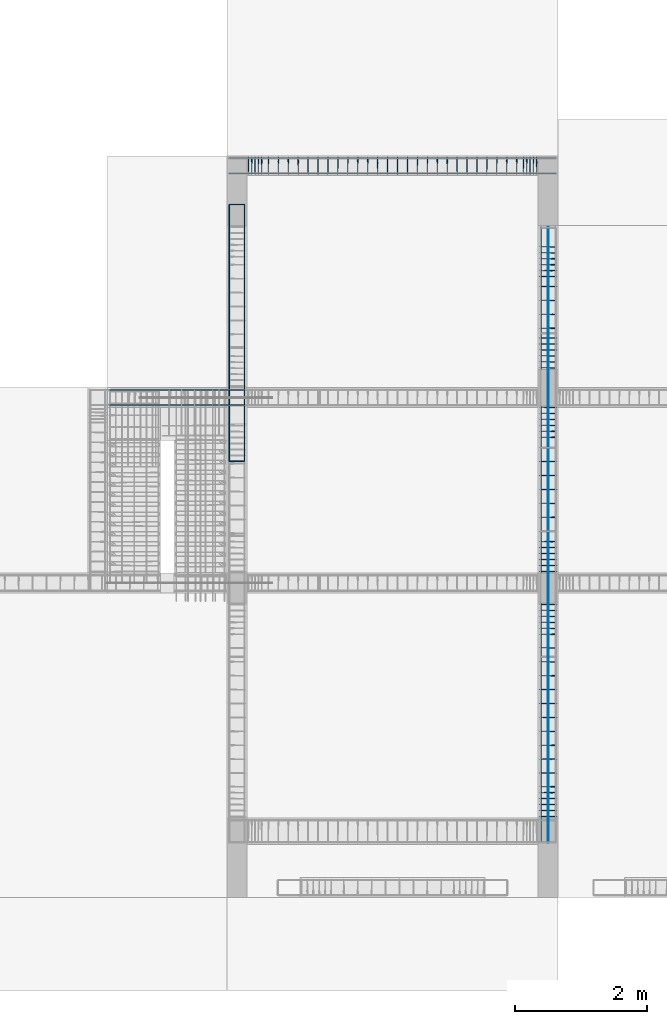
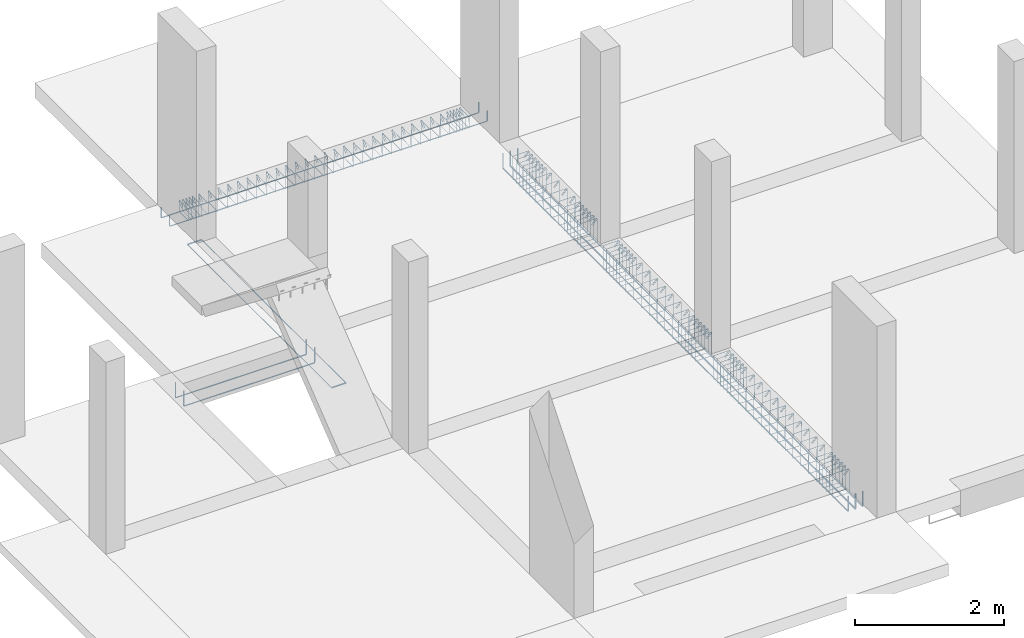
# One storey, part 4 of 5: 7 reinforcing bars.
"""IFC4 building model written with IfcOpenShell, lengths in metres."""

from ifc_helpers import new_model, entity, si_unit, frame, origin_with_axes, place, context, project, spatial, source, transform, mapped, element, save


model = new_model("IFC4")

# Units and contexts
model_context = context("Model", 3, precision=1e-05, world=origin_with_axes())
ifc_project = project(units=[si_unit("LENGTHUNIT", "METRE"), si_unit("AREAUNIT", "SQUARE_METRE"), si_unit("VOLUMEUNIT", "CUBIC_METRE"), si_unit("MASSUNIT", "GRAM", prefix="KILO"), si_unit("TIMEUNIT", "SECOND"), si_unit("PLANEANGLEUNIT", "RADIAN"), si_unit("SOLIDANGLEUNIT", "STERADIAN"), si_unit("THERMODYNAMICTEMPERATUREUNIT", "DEGREE_CELSIUS")], contexts=[model_context])

# Site, building, storey
placement_1 = place(None, origin_with_axes())
site = spatial("IfcSite", under=ifc_project, at=placement_1, Name="Italia", CompositionType="ELEMENT")
building = spatial("IfcBuilding", under=site, at=placement_1, Name="Bifamiliare", CompositionType="ELEMENT")
storey_placement = place(None, frame((0.0, 0.0, 2.799999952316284), z_axis=(0.0, 0.0, 1.0), x_axis=(1.0, 0.0, 0.0)))
storey = spatial("IfcBuildingStorey", under=building, at=storey_placement, Name="Storey 1", CompositionType="ELEMENT", Elevation=2.799999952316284)

# Reinforcing bars
shared_shape_1 = source(origin_with_axes(), model_context, "Body", "AdvancedSweptSolid", [
    entity("IfcSweptDiskSolid", entity("IfcIndexedPolyCurve", entity("IfcCartesianPointList3D", [[4.035, 8.837, 2.645], [4.035, 8.837, 2.405], [4.03576, 8.837, 2.40117], [4.03793, 8.837, 2.39793], [4.04117, 8.837, 2.39576], [4.045, 8.837, 2.395], [5.95, 8.837, 2.395], [6.055, 8.837, 2.395], [6.05883, 8.837, 2.39576], [6.06207, 8.837, 2.39793], [6.06424, 8.837, 2.40117], [6.065, 8.837, 2.405], [6.065, 8.837, 2.645]]), [entity("IfcLineIndex", [1, 2]), entity("IfcLineIndex", [2, 3]), entity("IfcLineIndex", [3, 4]), entity("IfcLineIndex", [4, 5]), entity("IfcLineIndex", [5, 6]), entity("IfcLineIndex", [6, 7]), entity("IfcLineIndex", [7, 8]), entity("IfcLineIndex", [8, 9]), entity("IfcLineIndex", [9, 10]), entity("IfcLineIndex", [10, 11]), entity("IfcLineIndex", [11, 12]), entity("IfcLineIndex", [12, 13])], False), 0.009),
])
placement_2 = place(placement_1, origin_with_axes())
reinforcing_bar_1_placement = place(placement_2, origin_with_axes())
element("IfcReinforcingBar", 1, at=reinforcing_bar_1_placement, inside=storey, BarLength=2.52121, CrossSectionArea=0.00025447, NominalDiameter=0.018, context=model_context, shape_type="MappedRepresentation", body=[
    mapped(shared_shape_1, transform((0.0, 0.226, 0.0), x_axis=(1.0, 0.0, 0.0), y_axis=(0.0, 1.0, 0.0), z_axis=(0.0, 0.0, 1.0), scale=1.0)),
    mapped(shared_shape_1, transform((0.0, 0.0, 0.0), x_axis=(1.0, 0.0, 0.0), y_axis=(0.0, 1.0, 0.0), z_axis=(0.0, 0.0, 1.0), scale=1.0)),
])
shared_shape_2 = source(origin_with_axes(), model_context, "Body", "AdvancedSweptSolid", [
    entity("IfcSweptDiskSolid", entity("IfcIndexedPolyCurve", entity("IfcCartesianPointList3D", [[6.12, 12.5053, 2.68429], [6.12085, 12.5731, 2.75207], [6.12092, 12.576, 2.75914], [6.12098, 12.576, 2.766], [6.12102, 12.5752, 2.76983], [6.12105, 12.5731, 2.77307], [6.12109, 12.5698, 2.77524], [6.12112, 12.566, 2.776], [6.12318, 12.334, 2.776], [6.12322, 12.3302, 2.77524], [6.12325, 12.3269, 2.77307], [6.12329, 12.3248, 2.76983], [6.12332, 12.324, 2.766], [6.12485, 12.324, 2.594], [6.12489, 12.3248, 2.59017], [6.12492, 12.3269, 2.58693], [6.12496, 12.3302, 2.58476], [6.12499, 12.334, 2.584], [6.12705, 12.566, 2.584], [6.12709, 12.5698, 2.58476], [6.12712, 12.5731, 2.58693], [6.12716, 12.5752, 2.59017], [6.12719, 12.576, 2.594], [6.12872, 12.576, 2.766], [6.12876, 12.5752, 2.76983], [6.12879, 12.5731, 2.77307], [6.12883, 12.5698, 2.77524], [6.12886, 12.566, 2.776], [6.12892, 12.5591, 2.776], [6.12899, 12.5521, 2.77307], [6.12984, 12.4843, 2.70529]]), [entity("IfcLineIndex", [1, 2]), entity("IfcLineIndex", [2, 3]), entity("IfcLineIndex", [3, 4]), entity("IfcLineIndex", [4, 5]), entity("IfcLineIndex", [5, 6]), entity("IfcLineIndex", [6, 7]), entity("IfcLineIndex", [7, 8]), entity("IfcLineIndex", [8, 9]), entity("IfcLineIndex", [9, 10]), entity("IfcLineIndex", [10, 11]), entity("IfcLineIndex", [11, 12]), entity("IfcLineIndex", [12, 13]), entity("IfcLineIndex", [13, 14]), entity("IfcLineIndex", [14, 15]), entity("IfcLineIndex", [15, 16]), entity("IfcLineIndex", [16, 17]), entity("IfcLineIndex", [17, 18]), entity("IfcLineIndex", [18, 19]), entity("IfcLineIndex", [19, 20]), entity("IfcLineIndex", [20, 21]), entity("IfcLineIndex", [21, 22]), entity("IfcLineIndex", [22, 23]), entity("IfcLineIndex", [23, 24]), entity("IfcLineIndex", [24, 25]), entity("IfcLineIndex", [25, 26]), entity("IfcLineIndex", [26, 27]), entity("IfcLineIndex", [27, 28]), entity("IfcLineIndex", [28, 29]), entity("IfcLineIndex", [29, 30]), entity("IfcLineIndex", [30, 31])], False), 0.004),
])
reinforcing_bar_2_placement = place(placement_2, origin_with_axes())
element("IfcReinforcingBar", 2, at=reinforcing_bar_2_placement, inside=storey, BarLength=1.10682, CrossSectionArea=5.0265e-05, NominalDiameter=0.008, context=model_context, shape_type="MappedRepresentation", body=[
    mapped(shared_shape_2, transform((3.1524, -0.00084877, 0.000744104), x_axis=(1.0, 0.00013935, -0.000125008), y_axis=(-0.000139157, 1.0, 0.0), z_axis=(0.000125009, 0.0, 1.0), scale=1.0)),
    mapped(shared_shape_2, transform((3.0024, -0.00084877, 0.000744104), x_axis=(1.0, 0.00013935, -0.000125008), y_axis=(-0.000139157, 1.0, 0.0), z_axis=(0.000125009, 0.0, 1.0), scale=1.0)),
    mapped(shared_shape_2, transform((3.4524, -0.00084877, 0.000744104), x_axis=(1.0, 0.00013935, -0.000125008), y_axis=(-0.000139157, 1.0, 0.0), z_axis=(0.000125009, 0.0, 1.0), scale=1.0)),
    mapped(shared_shape_2, transform((3.3024, -0.00084877, 0.000744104), x_axis=(1.0, 0.00013935, -0.000125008), y_axis=(-0.000139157, 1.0, 0.0), z_axis=(0.000125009, 0.0, 1.0), scale=1.0)),
    mapped(shared_shape_2, transform((2.5524, -0.00084877, 0.000744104), x_axis=(1.0, 0.00013935, -0.000125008), y_axis=(-0.000139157, 1.0, 0.0), z_axis=(0.000125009, 0.0, 1.0), scale=1.0)),
    mapped(shared_shape_2, transform((2.4024, -0.00084877, 0.000744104), x_axis=(1.0, 0.00013935, -0.000125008), y_axis=(-0.000139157, 1.0, 0.0), z_axis=(0.000125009, 0.0, 1.0), scale=1.0)),
    mapped(shared_shape_2, transform((2.8524, -0.00084877, 0.000744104), x_axis=(1.0, 0.00013935, -0.000125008), y_axis=(-0.000139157, 1.0, 0.0), z_axis=(0.000125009, 0.0, 1.0), scale=1.0)),
    mapped(shared_shape_2, transform((2.7024, -0.00084877, 0.000744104), x_axis=(1.0, 0.00013935, -0.000125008), y_axis=(-0.000139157, 1.0, 0.0), z_axis=(0.000125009, 0.0, 1.0), scale=1.0)),
    mapped(shared_shape_2, transform((4.3034, -0.00084877, 0.000744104), x_axis=(1.0, 0.00013935, -0.000125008), y_axis=(-0.000139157, 1.0, 0.0), z_axis=(0.000125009, 0.0, 1.0), scale=1.0)),
    mapped(shared_shape_2, transform((4.2534, -0.00084877, 0.000744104), x_axis=(1.0, 0.00013935, -0.000125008), y_axis=(-0.000139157, 1.0, 0.0), z_axis=(0.000125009, 0.0, 1.0), scale=1.0)),
    mapped(shared_shape_2, transform((2.2524, -0.00084877, 0.000744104), x_axis=(1.0, 0.00013935, -0.000125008), y_axis=(-0.000139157, 1.0, 0.0), z_axis=(0.000125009, 0.0, 1.0), scale=1.0)),
    mapped(shared_shape_2, transform((4.3534, -0.00084877, 0.000744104), x_axis=(1.0, 0.00013935, -0.000125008), y_axis=(-0.000139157, 1.0, 0.0), z_axis=(0.000125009, 0.0, 1.0), scale=1.0)),
    mapped(shared_shape_2, transform((4.0524, -0.00084877, 0.000744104), x_axis=(1.0, 0.00013935, -0.000125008), y_axis=(-0.000139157, 1.0, 0.0), z_axis=(0.000125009, 0.0, 1.0), scale=1.0)),
    mapped(shared_shape_2, transform((3.9024, -0.00084877, 0.000744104), x_axis=(1.0, 0.00013935, -0.000125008), y_axis=(-0.000139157, 1.0, 0.0), z_axis=(0.000125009, 0.0, 1.0), scale=1.0)),
    mapped(shared_shape_2, transform((4.2034, -0.00084877, 0.000744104), x_axis=(1.0, 0.00013935, -0.000125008), y_axis=(-0.000139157, 1.0, 0.0), z_axis=(0.000125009, 0.0, 1.0), scale=1.0)),
    mapped(shared_shape_2, transform((4.1534, -0.00084877, 0.000744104), x_axis=(1.0, 0.00013935, -0.000125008), y_axis=(-0.000139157, 1.0, 0.0), z_axis=(0.000125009, 0.0, 1.0), scale=1.0)),
    mapped(shared_shape_2, transform((0.750998, 0.0, 0.0), x_axis=(1.0, 0.0, 0.0), y_axis=(0.0, 1.0, 0.0), z_axis=(0.0, 0.0, 1.0), scale=1.0)),
    mapped(shared_shape_2, transform((0.600998, 0.0, 0.0), x_axis=(1.0, 0.0, 0.0), y_axis=(0.0, 1.0, 0.0), z_axis=(0.0, 0.0, 1.0), scale=1.0)),
    mapped(shared_shape_2, transform((3.7524, -0.00084877, 0.000744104), x_axis=(1.0, 0.00013935, -0.000125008), y_axis=(-0.000139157, 1.0, 0.0), z_axis=(0.000125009, 0.0, 1.0), scale=1.0)),
    mapped(shared_shape_2, transform((3.6024, -0.00084877, 0.000744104), x_axis=(1.0, 0.00013935, -0.000125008), y_axis=(-0.000139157, 1.0, 0.0), z_axis=(0.000125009, 0.0, 1.0), scale=1.0)),
    mapped(shared_shape_2, transform((0.199999, 0.0, 0.0), x_axis=(1.0, 0.0, 0.0), y_axis=(0.0, 1.0, 0.0), z_axis=(0.0, 0.0, 1.0), scale=1.0)),
    mapped(shared_shape_2, transform((0.149999, 0.0, 0.0), x_axis=(1.0, 0.0, 0.0), y_axis=(0.0, 1.0, 0.0), z_axis=(0.0, 0.0, 1.0), scale=1.0)),
    mapped(shared_shape_2, transform((0.450998, 0.0, 0.0), x_axis=(1.0, 0.0, 0.0), y_axis=(0.0, 1.0, 0.0), z_axis=(0.0, 0.0, 1.0), scale=1.0)),
    mapped(shared_shape_2, transform((0.300998, 0.0, 0.0), x_axis=(1.0, 0.0, 0.0), y_axis=(0.0, 1.0, 0.0), z_axis=(0.0, 0.0, 1.0), scale=1.0)),
    mapped(shared_shape_2, transform((0.0, 0.0, 0.0), x_axis=(1.0, 0.0, 0.0), y_axis=(0.0, 1.0, 0.0), z_axis=(0.0, 0.0, 1.0), scale=1.0)),
    mapped(shared_shape_2, transform((2.1024, -0.00084877, 0.000744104), x_axis=(1.0, 0.00013935, -0.000125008), y_axis=(-0.000139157, 1.0, 0.0), z_axis=(0.000125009, 0.0, 1.0), scale=1.0)),
    mapped(shared_shape_2, transform((0.099999, 0.0, 0.0), x_axis=(1.0, 0.0, 0.0), y_axis=(0.0, 1.0, 0.0), z_axis=(0.0, 0.0, 1.0), scale=1.0)),
    mapped(shared_shape_2, transform((0.0499992, 0.0, 0.0), x_axis=(1.0, 0.0, 0.0), y_axis=(0.0, 1.0, 0.0), z_axis=(0.0, 0.0, 1.0), scale=1.0)),
    mapped(shared_shape_2, transform((1.651, 0.0, 0.0), x_axis=(1.0, 0.0, 0.0), y_axis=(0.0, 1.0, 0.0), z_axis=(0.0, 0.0, 1.0), scale=1.0)),
    mapped(shared_shape_2, transform((1.501, 0.0, 0.0), x_axis=(1.0, 0.0, 0.0), y_axis=(0.0, 1.0, 0.0), z_axis=(0.0, 0.0, 1.0), scale=1.0)),
    mapped(shared_shape_2, transform((1.9524, -0.00084877, 0.000744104), x_axis=(1.0, 0.00013935, -0.000125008), y_axis=(-0.000139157, 1.0, 0.0), z_axis=(0.000125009, 0.0, 1.0), scale=1.0)),
    mapped(shared_shape_2, transform((1.801, 0.0, 0.0), x_axis=(1.0, 0.0, 0.0), y_axis=(0.0, 1.0, 0.0), z_axis=(0.0, 0.0, 1.0), scale=1.0)),
    mapped(shared_shape_2, transform((1.051, 0.0, 0.0), x_axis=(1.0, 0.0, 0.0), y_axis=(0.0, 1.0, 0.0), z_axis=(0.0, 0.0, 1.0), scale=1.0)),
    mapped(shared_shape_2, transform((0.900998, 0.0, 0.0), x_axis=(1.0, 0.0, 0.0), y_axis=(0.0, 1.0, 0.0), z_axis=(0.0, 0.0, 1.0), scale=1.0)),
    mapped(shared_shape_2, transform((1.351, 0.0, 0.0), x_axis=(1.0, 0.0, 0.0), y_axis=(0.0, 1.0, 0.0), z_axis=(0.0, 0.0, 1.0), scale=1.0)),
    mapped(shared_shape_2, transform((1.201, 0.0, 0.0), x_axis=(1.0, 0.0, 0.0), y_axis=(0.0, 1.0, 0.0), z_axis=(0.0, 0.0, 1.0), scale=1.0)),
])
shared_shape_3 = source(origin_with_axes(), model_context, "Body", "AdvancedSweptSolid", [
    entity("IfcSweptDiskSolid", entity("IfcIndexedPolyCurve", entity("IfcCartesianPointList3D", [[5.835, 12.336, 2.765], [5.835, 12.336, 2.605], [5.83576, 12.336, 2.60117], [5.83793, 12.336, 2.59793], [5.84117, 12.336, 2.59576], [5.845, 12.336, 2.595], [10.755, 12.336, 2.595], [10.7588, 12.336, 2.59576], [10.7621, 12.336, 2.59793], [10.7642, 12.336, 2.60117], [10.765, 12.336, 2.605], [10.765, 12.336, 2.765]]), [entity("IfcLineIndex", [1, 2]), entity("IfcLineIndex", [2, 3]), entity("IfcLineIndex", [3, 4]), entity("IfcLineIndex", [4, 5]), entity("IfcLineIndex", [5, 6]), entity("IfcLineIndex", [6, 7]), entity("IfcLineIndex", [7, 8]), entity("IfcLineIndex", [8, 9]), entity("IfcLineIndex", [9, 10]), entity("IfcLineIndex", [10, 11]), entity("IfcLineIndex", [11, 12])], False), 0.008),
])
reinforcing_bar_3_placement = place(placement_2, origin_with_axes())
element("IfcReinforcingBar", 3, at=reinforcing_bar_3_placement, inside=storey, BarLength=5.26121, CrossSectionArea=0.00020106, NominalDiameter=0.016, context=model_context, shape_type="MappedRepresentation", body=[
    mapped(shared_shape_3, transform((0.0, 0.228, 0.0), x_axis=(1.0, 0.0, 0.0), y_axis=(0.0, 1.0, 0.0), z_axis=(0.0, 0.0, 1.0), scale=1.0)),
    mapped(shared_shape_3, transform((0.0, 0.0, 0.0), x_axis=(1.0, 0.0, 0.0), y_axis=(0.0, 1.0, 0.0), z_axis=(0.0, 0.0, 1.0), scale=1.0)),
])
shared_shape_4 = source(origin_with_axes(), model_context, "Body", "AdvancedSweptSolid", [
    entity("IfcSweptDiskSolid", entity("IfcIndexedPolyCurve", entity("IfcCartesianPointList3D", [[6.064, 7.9875, 2.586], [5.844, 7.9875, 2.586], [5.84017, 7.98826, 2.586], [5.83693, 7.99043, 2.586], [5.83476, 7.99367, 2.586], [5.834, 7.9975, 2.586], [5.834, 11.855, 2.586], [5.83476, 11.8588, 2.586], [5.83693, 11.8621, 2.586], [5.84017, 11.8642, 2.586], [5.844, 11.865, 2.586], [6.064, 11.865, 2.586]]), [entity("IfcLineIndex", [1, 2]), entity("IfcLineIndex", [2, 3]), entity("IfcLineIndex", [3, 4]), entity("IfcLineIndex", [4, 5]), entity("IfcLineIndex", [5, 6]), entity("IfcLineIndex", [6, 7]), entity("IfcLineIndex", [7, 8]), entity("IfcLineIndex", [8, 9]), entity("IfcLineIndex", [9, 10]), entity("IfcLineIndex", [10, 11]), entity("IfcLineIndex", [11, 12])], False), 0.006),
])
reinforcing_bar_4_placement = place(placement_2, origin_with_axes())
element("IfcReinforcingBar", 4, at=reinforcing_bar_4_placement, inside=storey, BarLength=4.32871, CrossSectionArea=0.0001131, NominalDiameter=0.012, context=model_context, shape_type="MappedRepresentation", body=[
    mapped(shared_shape_4, transform((11.9, 0.0, 5.16), x_axis=(-1.0, 0.0, 0.0), y_axis=(0.0, 1.0, 0.0), z_axis=(0.0, 0.0, -1.0), scale=1.0)),
    mapped(shared_shape_4, transform((0.0, 0.0, 0.0), x_axis=(1.0, 0.0, 0.0), y_axis=(0.0, 1.0, 0.0), z_axis=(0.0, 0.0, 1.0), scale=1.0)),
])
shared_shape_5 = source(origin_with_axes(), model_context, "Body", "AdvancedSweptSolid", [
    entity("IfcSweptDiskSolid", entity("IfcIndexedPolyCurve", entity("IfcCartesianPointList3D", [[10.7053, 2.628, 2.68429], [10.7731, 2.62741, 2.75207], [10.776, 2.62736, 2.75914], [10.776, 2.62732, 2.766], [10.7752, 2.6273, 2.76983], [10.7731, 2.62727, 2.77307], [10.7698, 2.62725, 2.77524], [10.766, 2.62722, 2.776], [10.534, 2.6258, 2.776], [10.5302, 2.62577, 2.77524], [10.5269, 2.62575, 2.77307], [10.5248, 2.62572, 2.76983], [10.524, 2.6257, 2.766], [10.524, 2.62341, 2.394], [10.5248, 2.62339, 2.39017], [10.5269, 2.62336, 2.38693], [10.5302, 2.62334, 2.38476], [10.534, 2.62331, 2.384], [10.766, 2.62189, 2.384], [10.7698, 2.62186, 2.38476], [10.7731, 2.62184, 2.38693], [10.7752, 2.62181, 2.39017], [10.776, 2.62179, 2.394], [10.776, 2.6195, 2.766], [10.7752, 2.61948, 2.76983], [10.7731, 2.61945, 2.77307], [10.7698, 2.61943, 2.77524], [10.766, 2.61941, 2.776], [10.7591, 2.61936, 2.776], [10.7521, 2.61932, 2.77307], [10.6843, 2.61873, 2.70529]]), [entity("IfcLineIndex", [1, 2]), entity("IfcLineIndex", [2, 3]), entity("IfcLineIndex", [3, 4]), entity("IfcLineIndex", [4, 5]), entity("IfcLineIndex", [5, 6]), entity("IfcLineIndex", [6, 7]), entity("IfcLineIndex", [7, 8]), entity("IfcLineIndex", [8, 9]), entity("IfcLineIndex", [9, 10]), entity("IfcLineIndex", [10, 11]), entity("IfcLineIndex", [11, 12]), entity("IfcLineIndex", [12, 13]), entity("IfcLineIndex", [13, 14]), entity("IfcLineIndex", [14, 15]), entity("IfcLineIndex", [15, 16]), entity("IfcLineIndex", [16, 17]), entity("IfcLineIndex", [17, 18]), entity("IfcLineIndex", [18, 19]), entity("IfcLineIndex", [19, 20]), entity("IfcLineIndex", [20, 21]), entity("IfcLineIndex", [21, 22]), entity("IfcLineIndex", [22, 23]), entity("IfcLineIndex", [23, 24]), entity("IfcLineIndex", [24, 25]), entity("IfcLineIndex", [25, 26]), entity("IfcLineIndex", [26, 27]), entity("IfcLineIndex", [27, 28]), entity("IfcLineIndex", [28, 29]), entity("IfcLineIndex", [29, 30]), entity("IfcLineIndex", [30, 31])], False), 0.004),
])
reinforcing_bar_5_placement = place(placement_2, origin_with_axes())
element("IfcReinforcingBar", 5, at=reinforcing_bar_5_placement, inside=storey, BarLength=1.50681, CrossSectionArea=5.0265e-05, NominalDiameter=0.008, context=model_context, shape_type="MappedRepresentation", body=[
    mapped(shared_shape_5, transform((0.000336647, 5.90596, -0.000327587), x_axis=(1.0, 0.000127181, 0.0), y_axis=(-0.000127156, 1.0, 0.000120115), z_axis=(0.0, -0.000120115, 1.0), scale=1.0)),
    mapped(shared_shape_5, transform((0.000336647, 5.81596, -0.000327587), x_axis=(1.0, 0.000127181, 0.0), y_axis=(-0.000127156, 1.0, 0.000120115), z_axis=(0.0, -0.000120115, 1.0), scale=1.0)),
    mapped(shared_shape_5, transform((0.000336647, 8.60096, -0.000327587), x_axis=(1.0, 0.000127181, 0.0), y_axis=(-0.000127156, 1.0, 0.000120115), z_axis=(0.0, -0.000120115, 1.0), scale=1.0)),
    mapped(shared_shape_5, transform((0.000336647, 6.17596, -0.000327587), x_axis=(1.0, 0.000127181, 0.0), y_axis=(-0.000127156, 1.0, 0.000120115), z_axis=(0.0, -0.000120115, 1.0), scale=1.0)),
    mapped(shared_shape_5, transform((0.000336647, 6.08596, -0.000327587), x_axis=(1.0, 0.000127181, 0.0), y_axis=(-0.000127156, 1.0, 0.000120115), z_axis=(0.0, -0.000120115, 1.0), scale=1.0)),
    mapped(shared_shape_5, transform((0.000336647, 5.99596, -0.000327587), x_axis=(1.0, 0.000127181, 0.0), y_axis=(-0.000127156, 1.0, 0.000120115), z_axis=(0.0, -0.000120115, 1.0), scale=1.0)),
    mapped(shared_shape_5, transform((-3.14713e-05, 4.51862, 1.43051e-05), x_axis=(1.0, -1.19716e-05, 0.0), y_axis=(1.19988e-05, 1.0, 0.0), z_axis=(0.0, 0.0, 1.0), scale=1.0)),
    mapped(shared_shape_5, transform((0.000336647, 5.72596, -0.000327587), x_axis=(1.0, 0.000127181, 0.0), y_axis=(-0.000127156, 1.0, 0.000120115), z_axis=(0.0, -0.000120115, 1.0), scale=1.0)),
    mapped(shared_shape_5, transform((0.000336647, 6.77396, -0.000327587), x_axis=(1.0, 0.000127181, 0.0), y_axis=(-0.000127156, 1.0, 0.000120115), z_axis=(0.0, -0.000120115, 1.0), scale=1.0)),
    mapped(shared_shape_5, transform((-3.14713e-05, 5.14862, 1.43051e-05), x_axis=(1.0, -1.19716e-05, 0.0), y_axis=(1.19988e-05, 1.0, 0.0), z_axis=(0.0, 0.0, 1.0), scale=1.0)),
    mapped(shared_shape_5, transform((-3.14713e-05, 4.93862, 1.43051e-05), x_axis=(1.0, -1.19716e-05, 0.0), y_axis=(1.19988e-05, 1.0, 0.0), z_axis=(0.0, 0.0, 1.0), scale=1.0)),
    mapped(shared_shape_5, transform((-3.14713e-05, 4.72862, 1.43051e-05), x_axis=(1.0, -1.19716e-05, 0.0), y_axis=(1.19988e-05, 1.0, 0.0), z_axis=(0.0, 0.0, 1.0), scale=1.0)),
    mapped(shared_shape_5, transform((0.000336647, 6.86396, -0.000327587), x_axis=(1.0, 0.000127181, 0.0), y_axis=(-0.000127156, 1.0, 0.000120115), z_axis=(0.0, -0.000120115, 1.0), scale=1.0)),
    mapped(shared_shape_5, transform((0.000336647, 5.56746, -0.000327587), x_axis=(1.0, 0.000127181, 0.0), y_axis=(-0.000127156, 1.0, 0.000120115), z_axis=(0.0, -0.000120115, 1.0), scale=1.0)),
    mapped(shared_shape_5, transform((-3.14713e-05, 5.35862, 1.43051e-05), x_axis=(1.0, -1.19716e-05, 0.0), y_axis=(1.19988e-05, 1.0, 0.0), z_axis=(0.0, 0.0, 1.0), scale=1.0)),
    mapped(shared_shape_5, transform((0.000336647, 8.24096, -0.000327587), x_axis=(1.0, 0.000127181, 0.0), y_axis=(-0.000127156, 1.0, 0.000120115), z_axis=(0.0, -0.000120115, 1.0), scale=1.0)),
    mapped(shared_shape_5, transform((0.000336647, 8.15096, -0.000327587), x_axis=(1.0, 0.000127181, 0.0), y_axis=(-0.000127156, 1.0, 0.000120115), z_axis=(0.0, -0.000120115, 1.0), scale=1.0)),
    mapped(shared_shape_5, transform((0.000336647, 8.00246, -0.000327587), x_axis=(1.0, 0.000127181, 0.0), y_axis=(-0.000127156, 1.0, 0.000120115), z_axis=(0.0, -0.000120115, 1.0), scale=1.0)),
    mapped(shared_shape_5, transform((0.000336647, 8.51096, -0.000327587), x_axis=(1.0, 0.000127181, 0.0), y_axis=(-0.000127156, 1.0, 0.000120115), z_axis=(0.0, -0.000120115, 1.0), scale=1.0)),
    mapped(shared_shape_5, transform((0.000336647, 8.42096, -0.000327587), x_axis=(1.0, 0.000127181, 0.0), y_axis=(-0.000127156, 1.0, 0.000120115), z_axis=(0.0, -0.000120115, 1.0), scale=1.0)),
    mapped(shared_shape_5, transform((0.000336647, 8.33096, -0.000327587), x_axis=(1.0, 0.000127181, 0.0), y_axis=(-0.000127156, 1.0, 0.000120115), z_axis=(0.0, -0.000120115, 1.0), scale=1.0)),
    mapped(shared_shape_5, transform((0.000336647, 7.04396, -0.000327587), x_axis=(1.0, 0.000127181, 0.0), y_axis=(-0.000127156, 1.0, 0.000120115), z_axis=(0.0, -0.000120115, 1.0), scale=1.0)),
    mapped(shared_shape_5, transform((0.000336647, 6.95396, -0.000327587), x_axis=(1.0, 0.000127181, 0.0), y_axis=(-0.000127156, 1.0, 0.000120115), z_axis=(0.0, -0.000120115, 1.0), scale=1.0)),
    mapped(shared_shape_5, transform((0.000336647, 7.79246, -0.000327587), x_axis=(1.0, 0.000127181, 0.0), y_axis=(-0.000127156, 1.0, 0.000120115), z_axis=(0.0, -0.000120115, 1.0), scale=1.0)),
    mapped(shared_shape_5, transform((0.000336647, 7.37246, -0.000327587), x_axis=(1.0, 0.000127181, 0.0), y_axis=(-0.000127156, 1.0, 0.000120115), z_axis=(0.0, -0.000120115, 1.0), scale=1.0)),
    mapped(shared_shape_5, transform((0.000336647, 7.22396, -0.000327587), x_axis=(1.0, 0.000127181, 0.0), y_axis=(-0.000127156, 1.0, 0.000120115), z_axis=(0.0, -0.000120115, 1.0), scale=1.0)),
    mapped(shared_shape_5, transform((0.000336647, 7.13396, -0.000327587), x_axis=(1.0, 0.000127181, 0.0), y_axis=(-0.000127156, 1.0, 0.000120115), z_axis=(0.0, -0.000120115, 1.0), scale=1.0)),
    mapped(shared_shape_5, transform((0.0, 1.076, 0.0), x_axis=(1.0, 0.0, 0.0), y_axis=(0.0, 1.0, 0.0), z_axis=(0.0, 0.0, 1.0), scale=1.0)),
    mapped(shared_shape_5, transform((-3.14713e-05, 4.30862, 1.43051e-05), x_axis=(1.0, -1.19716e-05, 0.0), y_axis=(1.19988e-05, 1.0, 0.0), z_axis=(0.0, 0.0, 1.0), scale=1.0)),
    mapped(shared_shape_5, transform((0.000336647, 7.58246, -0.000327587), x_axis=(1.0, 0.000127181, 0.0), y_axis=(-0.000127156, 1.0, 0.000120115), z_axis=(0.0, -0.000120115, 1.0), scale=1.0)),
    mapped(shared_shape_5, transform((-3.14713e-05, 1.70612, 1.43051e-05), x_axis=(1.0, -1.19716e-05, 0.0), y_axis=(1.19988e-05, 1.0, 0.0), z_axis=(0.0, 0.0, 1.0), scale=1.0)),
    mapped(shared_shape_5, transform((-3.14713e-05, 1.49612, 1.43051e-05), x_axis=(1.0, -1.19716e-05, 0.0), y_axis=(1.19988e-05, 1.0, 0.0), z_axis=(0.0, 0.0, 1.0), scale=1.0)),
    mapped(shared_shape_5, transform((0.0, 1.286, 0.0), x_axis=(1.0, 0.0, 0.0), y_axis=(0.0, 1.0, 0.0), z_axis=(0.0, 0.0, 1.0), scale=1.0)),
    mapped(shared_shape_5, transform((0.0, 0.866, 0.0), x_axis=(1.0, 0.0, 0.0), y_axis=(0.0, 1.0, 0.0), z_axis=(0.0, 0.0, 1.0), scale=1.0)),
    mapped(shared_shape_5, transform((-3.14713e-05, 2.12612, 1.43051e-05), x_axis=(1.0, -1.19716e-05, 0.0), y_axis=(1.19988e-05, 1.0, 0.0), z_axis=(0.0, 0.0, 1.0), scale=1.0)),
    mapped(shared_shape_5, transform((-3.14713e-05, 1.91612, 1.43051e-05), x_axis=(1.0, -1.19716e-05, 0.0), y_axis=(1.19988e-05, 1.0, 0.0), z_axis=(0.0, 0.0, 1.0), scale=1.0)),
    mapped(shared_shape_5, transform((0.0, 0.27, 0.0), x_axis=(1.0, 0.0, 0.0), y_axis=(0.0, 1.0, 0.0), z_axis=(0.0, 0.0, 1.0), scale=1.0)),
    mapped(shared_shape_5, transform((0.0, 0.18, 0.0), x_axis=(1.0, 0.0, 0.0), y_axis=(0.0, 1.0, 0.0), z_axis=(0.0, 0.0, 1.0), scale=1.0)),
    mapped(shared_shape_5, transform((0.0, 0.0899997, 0.0), x_axis=(1.0, 0.0, 0.0), y_axis=(0.0, 1.0, 0.0), z_axis=(0.0, 0.0, 1.0), scale=1.0)),
    mapped(shared_shape_5, transform((0.0, 0.656, 0.0), x_axis=(1.0, 0.0, 0.0), y_axis=(0.0, 1.0, 0.0), z_axis=(0.0, 0.0, 1.0), scale=1.0)),
    mapped(shared_shape_5, transform((0.0, 0.45, 0.0), x_axis=(1.0, 0.0, 0.0), y_axis=(0.0, 1.0, 0.0), z_axis=(0.0, 0.0, 1.0), scale=1.0)),
    mapped(shared_shape_5, transform((0.0, 0.36, 0.0), x_axis=(1.0, 0.0, 0.0), y_axis=(0.0, 1.0, 0.0), z_axis=(0.0, 0.0, 1.0), scale=1.0)),
    mapped(shared_shape_5, transform((-3.14713e-05, 3.79012, 1.43051e-05), x_axis=(1.0, -1.19716e-05, 0.0), y_axis=(1.19988e-05, 1.0, 0.0), z_axis=(0.0, 0.0, 1.0), scale=1.0)),
    mapped(shared_shape_5, transform((-3.14713e-05, 3.70012, 1.43051e-05), x_axis=(1.0, -1.19716e-05, 0.0), y_axis=(1.19988e-05, 1.0, 0.0), z_axis=(0.0, 0.0, 1.0), scale=1.0)),
    mapped(shared_shape_5, transform((-3.14713e-05, 2.33612, 1.43051e-05), x_axis=(1.0, -1.19716e-05, 0.0), y_axis=(1.19988e-05, 1.0, 0.0), z_axis=(0.0, 0.0, 1.0), scale=1.0)),
    mapped(shared_shape_5, transform((-3.14713e-05, 4.06012, 1.43051e-05), x_axis=(1.0, -1.19716e-05, 0.0), y_axis=(1.19988e-05, 1.0, 0.0), z_axis=(0.0, 0.0, 1.0), scale=1.0)),
    mapped(shared_shape_5, transform((-3.14713e-05, 3.97012, 1.43051e-05), x_axis=(1.0, -1.19716e-05, 0.0), y_axis=(1.19988e-05, 1.0, 0.0), z_axis=(0.0, 0.0, 1.0), scale=1.0)),
    mapped(shared_shape_5, transform((-3.14713e-05, 3.88012, 1.43051e-05), x_axis=(1.0, -1.19716e-05, 0.0), y_axis=(1.19988e-05, 1.0, 0.0), z_axis=(0.0, 0.0, 1.0), scale=1.0)),
    mapped(shared_shape_5, transform((-3.14713e-05, 2.54612, 1.43051e-05), x_axis=(1.0, -1.19716e-05, 0.0), y_axis=(1.19988e-05, 1.0, 0.0), z_axis=(0.0, 0.0, 1.0), scale=1.0)),
    mapped(shared_shape_5, transform((-3.14713e-05, 3.20212, 1.43051e-05), x_axis=(1.0, -1.19716e-05, 0.0), y_axis=(1.19988e-05, 1.0, 0.0), z_axis=(0.0, 0.0, 1.0), scale=1.0)),
    mapped(shared_shape_5, transform((-3.14713e-05, 4.15012, 1.43051e-05), x_axis=(1.0, -1.19716e-05, 0.0), y_axis=(1.19988e-05, 1.0, 0.0), z_axis=(0.0, 0.0, 1.0), scale=1.0)),
    mapped(shared_shape_5, transform((-3.14713e-05, 2.93212, 1.43051e-05), x_axis=(1.0, -1.19716e-05, 0.0), y_axis=(1.19988e-05, 1.0, 0.0), z_axis=(0.0, 0.0, 1.0), scale=1.0)),
    mapped(shared_shape_5, transform((-3.14713e-05, 2.84212, 1.43051e-05), x_axis=(1.0, -1.19716e-05, 0.0), y_axis=(1.19988e-05, 1.0, 0.0), z_axis=(0.0, 0.0, 1.0), scale=1.0)),
    mapped(shared_shape_5, transform((-3.14713e-05, 2.75212, 1.43051e-05), x_axis=(1.0, -1.19716e-05, 0.0), y_axis=(1.19988e-05, 1.0, 0.0), z_axis=(0.0, 0.0, 1.0), scale=1.0)),
    mapped(shared_shape_5, transform((0.0, 0.0, 0.0), x_axis=(1.0, 0.0, 0.0), y_axis=(0.0, 1.0, 0.0), z_axis=(0.0, 0.0, 1.0), scale=1.0)),
    mapped(shared_shape_5, transform((-3.14713e-05, 3.11212, 1.43051e-05), x_axis=(1.0, -1.19716e-05, 0.0), y_axis=(1.19988e-05, 1.0, 0.0), z_axis=(0.0, 0.0, 1.0), scale=1.0)),
    mapped(shared_shape_5, transform((-3.14713e-05, 3.02212, 1.43051e-05), x_axis=(1.0, -1.19716e-05, 0.0), y_axis=(1.19988e-05, 1.0, 0.0), z_axis=(0.0, 0.0, 1.0), scale=1.0)),
])
shared_shape_6 = source(origin_with_axes(), model_context, "Body", "AdvancedSweptSolid", [
    entity("IfcSweptDiskSolid", entity("IfcIndexedPolyCurve", entity("IfcCartesianPointList3D", [[10.763, 2.235, 2.645], [10.763, 2.235, 2.405], [10.763, 2.23576, 2.40117], [10.763, 2.23793, 2.39793], [10.763, 2.24117, 2.39576], [10.763, 2.245, 2.395], [10.763, 11.505, 2.395], [10.763, 11.5088, 2.39576], [10.763, 11.5121, 2.39793], [10.763, 11.5142, 2.40117], [10.763, 11.515, 2.405], [10.763, 11.515, 2.645]]), [entity("IfcLineIndex", [1, 2]), entity("IfcLineIndex", [2, 3]), entity("IfcLineIndex", [3, 4]), entity("IfcLineIndex", [4, 5]), entity("IfcLineIndex", [5, 6]), entity("IfcLineIndex", [6, 7]), entity("IfcLineIndex", [7, 8]), entity("IfcLineIndex", [8, 9]), entity("IfcLineIndex", [9, 10]), entity("IfcLineIndex", [10, 11]), entity("IfcLineIndex", [11, 12])], False), 0.009),
])
reinforcing_bar_6_placement = place(placement_2, origin_with_axes())
element("IfcReinforcingBar", 6, at=reinforcing_bar_6_placement, inside=storey, BarLength=9.77122, CrossSectionArea=0.00025447, NominalDiameter=0.018, context=model_context, shape_type="MappedRepresentation", body=[
    mapped(shared_shape_6, transform((-0.226, 0.0, 0.0), x_axis=(1.0, 0.0, 0.0), y_axis=(0.0, 1.0, 0.0), z_axis=(0.0, 0.0, 1.0), scale=1.0)),
    mapped(shared_shape_6, transform((0.0, 0.0, 0.0), x_axis=(1.0, 0.0, 0.0), y_axis=(0.0, 1.0, 0.0), z_axis=(0.0, 0.0, 1.0), scale=1.0)),
])
shared_shape_7 = source(origin_with_axes(), model_context, "Body", "AdvancedSweptSolid", [
    entity("IfcSweptDiskSolid", entity("IfcIndexedPolyCurve", entity("IfcCartesianPointList3D", [[10.65, 2.235, 2.645], [10.65, 2.235, 2.405], [10.65, 2.23576, 2.40117], [10.65, 2.23793, 2.39793], [10.65, 2.24117, 2.39576], [10.65, 2.245, 2.395], [10.65, 11.505, 2.395], [10.65, 11.5088, 2.39576], [10.65, 11.5121, 2.39793], [10.65, 11.5142, 2.40117], [10.65, 11.515, 2.405], [10.65, 11.515, 2.645]]), [entity("IfcLineIndex", [1, 2]), entity("IfcLineIndex", [2, 3]), entity("IfcLineIndex", [3, 4]), entity("IfcLineIndex", [4, 5]), entity("IfcLineIndex", [5, 6]), entity("IfcLineIndex", [6, 7]), entity("IfcLineIndex", [7, 8]), entity("IfcLineIndex", [8, 9]), entity("IfcLineIndex", [9, 10]), entity("IfcLineIndex", [10, 11]), entity("IfcLineIndex", [11, 12])], False), 0.007),
])
reinforcing_bar_7_placement = place(placement_2, origin_with_axes())
element("IfcReinforcingBar", 7, at=reinforcing_bar_7_placement, inside=storey, BarLength=9.77122, CrossSectionArea=0.00015394, NominalDiameter=0.014, context=model_context, shape_type="MappedRepresentation", body=[
    mapped(shared_shape_7, transform((0.0, 0.0, 0.0), x_axis=(1.0, 0.0, 0.0), y_axis=(0.0, 1.0, 0.0), z_axis=(0.0, 0.0, 1.0), scale=1.0)),
])

save(model, "model.ifc")
